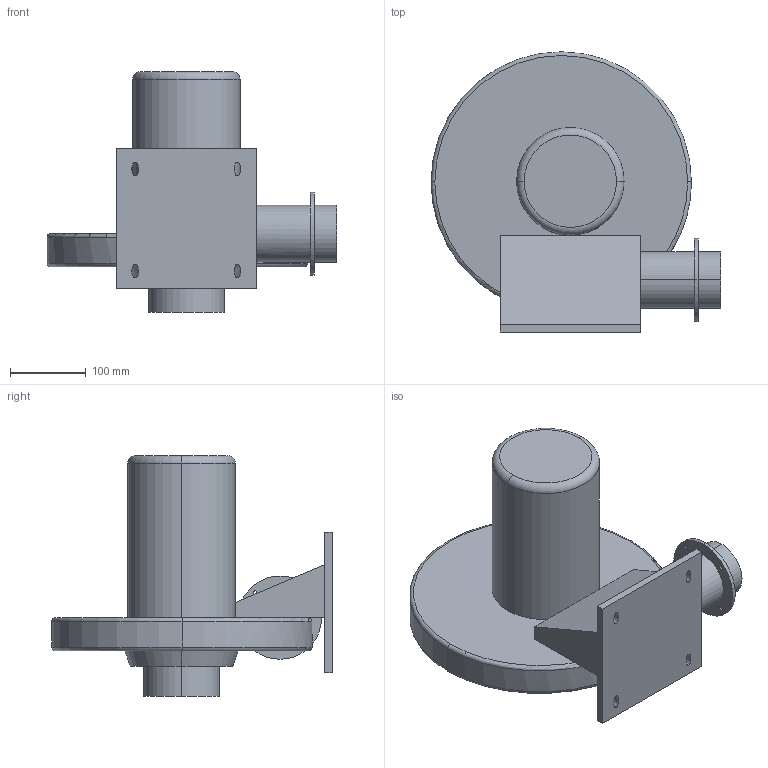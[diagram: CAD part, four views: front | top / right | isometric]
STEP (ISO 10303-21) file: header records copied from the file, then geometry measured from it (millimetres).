
FILE_DESCRIPTION (( 'STEP AP203' ), '1' );
FILE_NAME ('CX-400.STEP', '2019-04-25T09:04:02', ( 'User' ), ( 'www.dadighost.com' ), 'SwSTEP 2.0', 'SolidWorks 2014', '' );
FILE_SCHEMA (( 'CONFIG_CONTROL_DESIGN' ));
Length unit declared in the file: millimetre
Products named in the file (1): CX-400
Bounding box: 383 x 370.42 x 318 mm (x, y, z)
Volume: 9488595.9 mm3; surface area: 571811.9 mm2
Topology: 3 solids, 3 shells, 62 faces, 150 edges, 98 vertices
Faces by surface type: cylinder 23, plane 21, torus 8, bspline 8, cone 2
Entity records: 2163 total; most frequent: CARTESIAN_POINT 633, ORIENTED_EDGE 300, DIRECTION 299, EDGE_CURVE 150, AXIS2_PLACEMENT_3D 119, VERTEX_POINT 98, EDGE_LOOP 84, CIRCLE 64
